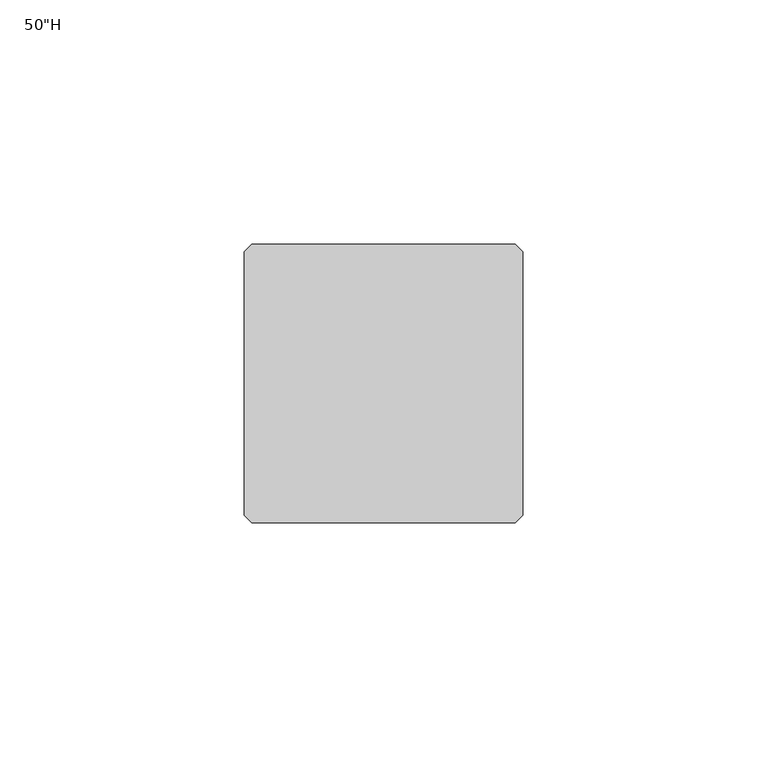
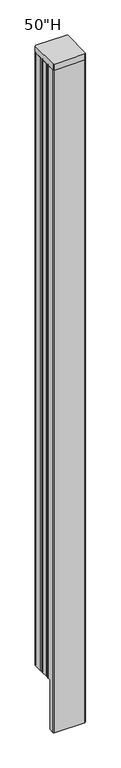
"""IFC4 building model written with IfcOpenShell, lengths in millimetres: furniture geometry."""

import ifcopenshell
import ifcopenshell.guid

model = None  # the IFC model being written
_history = None  # IfcOwnerHistory: only IFC2X3 demands one
_inside = {}  # id of a spatial element -> (the spatial element, [elements in it])
_under = {}  # id of a project, library or spatial element -> (it, [spatial elements below it])
_declared = {}  # id of a project -> (the project, [libraries it declares])
_typed = {}  # id of a type object -> (the type object, [elements of that type])
_made_of = {}  # id of a material, layer set ... -> (it, [elements and type objects made of it])


def new_model(schema):
    """Start an empty IFC model of exactly this schema.

    Asked for "IFC4X3", IfcOpenShell would pick the latest addendum, in which some entities
    have other attributes; the version numbers below select the first issue.
    IFC2X3 requires an IfcOwnerHistory on every rooted entity: one is made here for all.
    """
    global model, _history
    if schema == "IFC4X3":
        model = ifcopenshell.file(schema_version=(4, 3, 0, 0))
    else:
        model = ifcopenshell.file(schema=schema)
    _inside.clear()
    _under.clear()
    _declared.clear()
    _typed.clear()
    _made_of.clear()
    _history = None
    if model.schema == "IFC2X3":
        org = make("IfcOrganization", Name="unknown")
        user = make(
            "IfcPersonAndOrganization",
            ThePerson=make("IfcPerson", FamilyName="unknown"),
            TheOrganization=org,
        )
        app = make(
            "IfcApplication",
            ApplicationDeveloper=org,
            Version="unknown",
            ApplicationFullName="unknown",
            ApplicationIdentifier="unknown",
        )
        _history = make(
            "IfcOwnerHistory",
            OwningUser=user,
            OwningApplication=app,
            ChangeAction="ADDED",
            CreationDate=0,
        )
    return model


def make(cls, **values):
    """One entity of the class cls with the attributes given. An attribute that is None is left unset."""
    return model.create_entity(
        cls, **{name: value for name, value in values.items() if value is not None}
    )


def rooted(cls, **values):
    """An entity with a GlobalId (a new one), such as an element, a storey or a relation."""
    return make(cls, GlobalId=ifcopenshell.guid.new(), OwnerHistory=_history, **values)


def si_unit(unit_type, name, prefix=None):
    """IfcSIUnit, for example si_unit("LENGTHUNIT", "METRE", prefix="MILLI")."""
    return make("IfcSIUnit", UnitType=unit_type, Prefix=prefix, Name=name)


def assignment(units):
    """IfcUnitAssignment: the units of a project."""
    return None if units is None else make("IfcUnitAssignment", Units=units)


def point(xyz):
    """IfcCartesianPoint."""
    return None if xyz is None else make("IfcCartesianPoint", Coordinates=xyz)


def direction(xyz):
    """IfcDirection."""
    return None if xyz is None else make("IfcDirection", DirectionRatios=xyz)


def frame(location, z_axis=None, x_axis=None):
    """IfcAxis2Placement3D, a coordinate frame: its origin and axes. An axis left out is left unset."""
    return make(
        "IfcAxis2Placement3D",
        Location=point(location),
        Axis=direction(z_axis),
        RefDirection=direction(x_axis),
    )


def origin():
    """The frame at (0, 0, 0) with its axes left unset."""
    return frame((0.0, 0.0, 0.0))


def place(relative_to, where):
    """IfcLocalPlacement: puts the frame where relative to a parent placement (None: the world)."""
    return make(
        "IfcLocalPlacement", PlacementRelTo=relative_to, RelativePlacement=where
    )


def context(
    kind, dimensions, precision=None, world=None, true_north=None, identifier=None
):
    """IfcGeometricRepresentationContext, for example the 3D "Model" context."""
    return make(
        "IfcGeometricRepresentationContext",
        ContextIdentifier=identifier,
        ContextType=kind,
        CoordinateSpaceDimension=dimensions,
        Precision=precision,
        WorldCoordinateSystem=world,
        TrueNorth=true_north,
    )


def project(units=None, contexts=None):
    """IfcProject with its units and contexts."""
    return rooted(
        "IfcProject",
        Name="project",
        RepresentationContexts=contexts,
        UnitsInContext=assignment(units),
    )


def spatial(cls, under=None, at=None, **own):
    """A site, building, storey or space (cls), placed at a placement, below another one or the project."""
    s = rooted(cls, ObjectPlacement=at, **own)
    if under is not None:
        _under.setdefault(under.id(), (under, []))[1].append(s)
    return s


def polyline(points):
    """IfcPolyline through the points."""
    return make("IfcPolyline", Points=[point(p) for p in points])


def circle_curve(where, radius):
    """IfcCircle in the frame where."""
    return make("IfcCircle", Position=where, Radius=radius)


def outline(outer, holes=None, kind="AREA"):
    """IfcArbitraryClosedProfileDef: a profile drawn as a closed curve; with holes, ...WithVoids."""
    if holes is None:
        return make("IfcArbitraryClosedProfileDef", ProfileType=kind, OuterCurve=outer)
    return make(
        "IfcArbitraryProfileDefWithVoids",
        ProfileType=kind,
        OuterCurve=outer,
        InnerCurves=holes,
    )


def extrude(swept, where, along, depth):
    """IfcExtrudedAreaSolid: the profile swept, set in the frame where, extruded along a direction by depth."""
    return make(
        "IfcExtrudedAreaSolid",
        SweptArea=swept,
        Position=where,
        ExtrudedDirection=direction(along),
        Depth=depth,
    )


def shape(context_of_items, identifier, shape_type, items):
    """IfcShapeRepresentation: the items that make up one representation, for example the "Body"."""
    return make(
        "IfcShapeRepresentation",
        ContextOfItems=context_of_items,
        RepresentationIdentifier=identifier,
        RepresentationType=shape_type,
        Items=items,
    )


def source(mapping_origin, context_of_items, identifier, shape_type, items):
    """IfcRepresentationMap: a shape defined once, which mapped items show again and again."""
    return make(
        "IfcRepresentationMap",
        MappingOrigin=mapping_origin,
        MappedRepresentation=shape(context_of_items, identifier, shape_type, items),
    )


def transform(
    local_origin,
    x_axis=None,
    y_axis=None,
    z_axis=None,
    scale=None,
    scale2=None,
    scale3=None,
    uniform=True,
):
    """IfcCartesianTransformationOperator3D, or its non-uniform kind. x_axis, y_axis, z_axis: its Axis1, 2, 3."""
    if uniform:
        return make(
            "IfcCartesianTransformationOperator3D",
            Axis1=direction(x_axis),
            Axis2=direction(y_axis),
            LocalOrigin=point(local_origin),
            Scale=scale,
            Axis3=direction(z_axis),
        )
    return make(
        "IfcCartesianTransformationOperator3DnonUniform",
        Axis1=direction(x_axis),
        Axis2=direction(y_axis),
        LocalOrigin=point(local_origin),
        Scale=scale,
        Axis3=direction(z_axis),
        Scale2=scale2,
        Scale3=scale3,
    )


def mapped(mapping_source, mapping_target):
    """IfcMappedItem: shows the shape of a source again, moved by a transform."""
    return make(
        "IfcMappedItem", MappingSource=mapping_source, MappingTarget=mapping_target
    )


def made_of(thing, what):
    """Note that an element or type object is made of a material, layer set ...; save() writes the relation."""
    if what is not None:
        _made_of.setdefault(what.id(), (what, []))[1].append(thing)
    return thing


def element(
    cls,
    number,
    at=None,
    inside=None,
    cuts=None,
    type_object=None,
    material=None,
    context=None,
    identifier="Body",
    shape_type=None,
    held_by="IfcProductDefinitionShape",
    body=None,
    shapes=None,
    **own,
):
    """One element of the class cls, such as IfcWall. Its Tag is "e" and its number.

    at: its placement. inside: the storey or other place that contains it. cuts: it is an
    opening in that element (IfcRelVoidsElement). A single representation is given by context,
    identifier, shape_type and body (its items); several are given by shapes. held_by: the class
    of the entity that holds the representations. save() writes the other relations.
    """
    e = rooted(cls, Tag="e%d" % number, ObjectPlacement=at, **own)
    if body is not None:
        shapes = [shape(context, identifier, shape_type, body)]
    if shapes is not None:
        e.Representation = make(held_by, Representations=shapes)
    if inside is not None:
        _inside.setdefault(inside.id(), (inside, []))[1].append(e)
    if cuts is not None:
        rooted(
            "IfcRelVoidsElement", RelatingBuildingElement=cuts, RelatedOpeningElement=e
        )
    if type_object is not None:
        _typed.setdefault(type_object.id(), (type_object, []))[1].append(e)
    return made_of(e, material)


def aggregate(whole, parts):
    """IfcRelAggregates: a whole, such as a stair, and the parts it consists of."""
    return rooted("IfcRelAggregates", RelatingObject=whole, RelatedObjects=parts)


def save(model, path):
    """Write the relations noted so far, then the file.

    IfcRelAggregates (storeys below a building ...), IfcRelContainedInSpatialStructure (elements
    in a storey), IfcRelDefinesByType, IfcRelAssociatesMaterial and IfcRelDeclares: one each for
    every whole, place, type object, material and project.
    """
    for whole, parts in _under.values():
        aggregate(whole, parts)
    for where, things in _inside.values():
        rooted(
            "IfcRelContainedInSpatialStructure",
            RelatedElements=things,
            RelatingStructure=where,
        )
    for kind, things in _typed.values():
        rooted("IfcRelDefinesByType", RelatedObjects=things, RelatingType=kind)
    for what, things in _made_of.values():
        rooted("IfcRelAssociatesMaterial", RelatedObjects=things, RelatingMaterial=what)
    for by, libraries in _declared.values():
        rooted("IfcRelDeclares", RelatingContext=by, RelatedDefinitions=libraries)
    model.write(path)


def plane_surface(at):
    """IfcPlane: the flat surface through the origin of the frame at, square to its z axis."""
    return make("IfcPlane", Position=at)


def cylinder_surface(at, radius):
    """IfcCylindricalSurface: all points at the distance radius from the z axis of the frame at."""
    return make("IfcCylindricalSurface", Position=at, Radius=radius)


def revolved_surface(curve, axis_point, axis_direction):
    """IfcSurfaceOfRevolution: the curve turned about the line through axis_point along axis_direction."""
    return make(
        "IfcSurfaceOfRevolution",
        SweptCurve=make("IfcArbitraryOpenProfileDef", ProfileType="CURVE", Curve=curve),
        AxisPosition=make("IfcAxis1Placement", Location=point(axis_point), Axis=direction(axis_direction)),
    )


def advanced_brep(points, edges, surfaces, faces):
    """IfcAdvancedBrep: a solid bounded by faces that lie on surfaces and meet in shared edges.

    An edge is (start, end): straight between two places in points (the first is 0);
    or (start, end, curve); or (start, end, curve, False) where it runs against its curve.
    A face is (place in surfaces, loops), or (place, loops, False) where it looks against
    its surface's normal. A loop lists edges by number (the first is 1), with a minus sign
    where the edge is run from its end to its start. The first loop is the outer one.
    """
    corners = [point(p) for p in points]
    vertices = [make("IfcVertexPoint", VertexGeometry=c) for c in corners]
    made = []
    for start, end, *more in edges:
        made.append(
            make(
                "IfcEdgeCurve",
                EdgeStart=vertices[start],
                EdgeEnd=vertices[end],
                EdgeGeometry=more[0] if more else make("IfcPolyline", Points=[corners[start], corners[end]]),
                SameSense=more[1] if len(more) > 1 else True,
            )
        )
    hull = []
    for where, loops, *sense in faces:
        bounds = []
        for j, loop in enumerate(loops):
            ring = [make("IfcOrientedEdge", EdgeElement=made[abs(k) - 1], Orientation=k > 0) for k in loop]
            bounds.append(
                make(
                    "IfcFaceOuterBound" if j == 0 else "IfcFaceBound",
                    Bound=make("IfcEdgeLoop", EdgeList=ring),
                    Orientation=True,
                )
            )
        hull.append(make("IfcAdvancedFace", Bounds=bounds, FaceSurface=surfaces[where], SameSense=sense[0] if sense else True))
    return make("IfcAdvancedBrep", Outer=make("IfcClosedShell", CfsFaces=hull))


def furniture_285fecfc(model_context):
    return source(origin(), model_context, "Body", "SolidModel", [
        extrude(outline(polyline([(0.0, -1.5874985), (1.5874985, 0.0), (55.5625015, 0.0), (57.15, -1.5874985), (57.15, -55.5625015), (55.5625015, -57.15), (1.5874985, -57.15), (0.0, -55.5625015), (0.0, -1.5874985)])), frame((0.0, 0.0, 1247.775), z_axis=(0.0, 0.0, 1.0), x_axis=(1.0, 0.0, 0.0)), (0.0, 0.0, 1.0), 11.2522202),
        advanced_brep(
        [(0.0, -34.360617, 1247.775), (0.0245942, -39.2275622, 1247.775), (0.0245942, -55.5870957, 1247.775), (1.5629043, -57.1254058, 1247.775), (55.5870957, -57.1254058, 1247.775), (57.1254058, -55.5870957, 1247.775), (57.1254058, -39.2275622, 1247.775), (57.15, -34.360617, 1247.775), (57.15, -22.789383, 1247.775), (57.1254058, -17.9224378, 1247.775), (57.1254058, -1.5629043, 1247.775), (55.5870957, -0.0245942, 1247.775), (39.0370624, -0.0245942, 1247.775), (34.1701172, 0.0, 1247.775), (22.5988831, 0.0, 1247.775), (17.731938, -0.0245942, 1247.775), (1.5629043, -0.0245942, 1247.775), (0.0245942, -1.5629043, 1247.775), (0.0245942, -17.9224378, 1247.775), (0.0, -22.789383, 1247.775), (0.8183442, -39.5025989, 1247.775), (0.79375, -34.0813213, 1247.775), (0.79375, -23.0686787, 1247.775), (0.8183442, -17.6474011, 1247.775), (0.8183442, -1.8916863, 1247.775), (1.8916863, -0.8183442, 1247.775), (17.4569013, -0.8183442, 1247.775), (22.8781788, -0.79375, 1247.775), (33.8908215, -0.79375, 1247.775), (39.3120991, -0.8183442, 1247.775), (55.2583137, -0.8183442, 1247.775), (56.3316558, -1.8916863, 1247.775), (56.3316558, -17.6474011, 1247.775), (56.35625, -23.0686787, 1247.775), (56.35625, -34.0813213, 1247.775), (56.3316558, -39.5025989, 1247.775), (56.3316558, -55.2583137, 1247.775), (55.2583137, -56.3316558, 1247.775), (1.8916863, -56.3316558, 1247.775), (0.8183442, -55.2583137, 1247.775), (0.0245942, -55.5870957, 19.84375), (0.0245942, -46.0247979, 19.84375), (0.8183442, -46.0247979, 19.84375), (0.8183442, -55.2583137, 19.84375), (1.8916863, -56.3316558, 19.84375), (55.2583137, -56.3316558, 19.84375), (56.3316558, -55.2583137, 19.84375), (56.3316558, -46.0247979, 19.84375), (57.1254058, -46.0247979, 19.84375), (57.1254058, -55.5870957, 19.84375), (55.5870957, -57.1254058, 19.84375), (1.5629043, -57.1254058, 19.84375), (0.0, -22.789383, 111.8539829), (0.0, -34.360617, 111.8539829), (0.0245942, -17.9224378, 111.8539829), (0.0245942, -1.5629043, 111.8539829), (1.5629043, -0.0245942, 111.8539829), (17.731938, -0.0245942, 111.8539829), (22.5988831, 0.0, 111.8539829), (34.1701172, 0.0, 111.8539829), (39.0370624, -0.0245942, 111.8539829), (55.5870957, -0.0245942, 111.8539829), (57.1254058, -1.5629043, 111.8539829), (0.0245942, -39.2275622, 111.8539829), (0.0245942, -46.0247979, 111.8539829), (0.8183442, -46.0247979, 111.8539829), (0.8183442, -39.5025989, 111.8539829), (55.2583137, -0.8183442, 111.8539829), (56.3316558, -1.8916863, 111.8539829), (39.3120991, -0.8183442, 111.8539829), (33.8908215, -0.79375, 111.8539829), (22.8781788, -0.79375, 111.8539829), (17.4569013, -0.8183442, 111.8539829), (1.8916863, -0.8183442, 111.8539829), (0.8183442, -1.8916863, 111.8539829), (0.8183442, -17.6474011, 111.8539829), (0.79375, -23.0686787, 111.8539829), (0.79375, -34.0813213, 111.8539829), (57.1254058, -17.9224378, 111.8539829), (57.15, -22.789383, 111.8539829), (57.15, -34.360617, 111.8539829), (57.1254058, -39.2275622, 111.8539829), (57.1254058, -46.0247979, 111.8539829), (56.3316558, -46.0247979, 111.8539829), (56.3316558, -39.5025989, 111.8539829), (56.35625, -34.0813213, 111.8539829), (56.35625, -23.0686787, 111.8539829), (56.3316558, -17.6474011, 111.8539829)],
        [
            (0, 1, circle_curve(frame((-2.8354169, -36.80848, 1247.775), z_axis=(0.0, 0.0, -1.0), x_axis=(1.0, 0.0, 0.0)), 3.7458807)),
            (1, 2),
            (2, 3),
            (3, 4),
            (4, 5),
            (5, 6),
            (6, 7, circle_curve(frame((59.9854169, -36.80848, 1247.775), z_axis=(0.0, 0.0, -1.0), x_axis=(1.0, 0.0, 0.0)), 3.7458807)),
            (7, 8),
            (8, 9, circle_curve(frame((59.9854169, -20.34152, 1247.775), z_axis=(0.0, 0.0, -1.0), x_axis=(1.0, 0.0, 0.0)), 3.7458807)),
            (9, 10),
            (10, 11),
            (11, 12),
            (12, 13, circle_curve(frame((36.6179802, 2.8354169, 1247.775), z_axis=(0.0, 0.0, -1.0), x_axis=(1.0, 0.0, 0.0)), 3.7458807)),
            (13, 14),
            (14, 15, circle_curve(frame((20.1510201, 2.8354169, 1247.775), z_axis=(0.0, 0.0, -1.0), x_axis=(1.0, 0.0, 0.0)), 3.7458807)),
            (15, 16),
            (16, 17),
            (17, 18),
            (18, 19, circle_curve(frame((-2.8354169, -20.34152, 1247.775), z_axis=(0.0, 0.0, -1.0), x_axis=(1.0, 0.0, 0.0)), 3.7458807)),
            (19, 0),
            (20, 21, circle_curve(frame((-2.8354169, -36.80848, 1247.775), z_axis=(0.0, 0.0, 1.0), x_axis=(1.0, 0.0, 0.0)), 4.5396307)),
            (21, 22),
            (22, 23, circle_curve(frame((-2.8354169, -20.34152, 1247.775), z_axis=(0.0, 0.0, 1.0), x_axis=(1.0, 0.0, 0.0)), 4.5396307)),
            (23, 24),
            (24, 25),
            (25, 26),
            (26, 27, circle_curve(frame((20.1510201, 2.8354169, 1247.775), z_axis=(0.0, 0.0, 1.0), x_axis=(1.0, 0.0, 0.0)), 4.5396307)),
            (27, 28),
            (28, 29, circle_curve(frame((36.6179802, 2.8354169, 1247.775), z_axis=(0.0, 0.0, 1.0), x_axis=(1.0, 0.0, 0.0)), 4.5396307)),
            (29, 30),
            (30, 31),
            (31, 32),
            (32, 33, circle_curve(frame((59.9854169, -20.34152, 1247.775), z_axis=(0.0, 0.0, 1.0), x_axis=(1.0, 0.0, 0.0)), 4.5396307)),
            (33, 34),
            (34, 35, circle_curve(frame((59.9854169, -36.80848, 1247.775), z_axis=(0.0, 0.0, 1.0), x_axis=(1.0, 0.0, 0.0)), 4.5396307)),
            (35, 36),
            (36, 37),
            (37, 38),
            (38, 39),
            (39, 20),
            (40, 41),
            (41, 42),
            (42, 43),
            (43, 44),
            (44, 45),
            (45, 46),
            (46, 47),
            (47, 48),
            (48, 49),
            (49, 50),
            (50, 51),
            (51, 40),
            (19, 52),
            (52, 53),
            (53, 0),
            (18, 54),
            (54, 52, circle_curve(frame((-2.8354169, -20.34152, 111.8539829), z_axis=(0.0, 0.0, -1.0), x_axis=(1.0, 0.0, 0.0)), 3.7458807)),
            (17, 55),
            (55, 54),
            (16, 56),
            (56, 55),
            (15, 57),
            (57, 56),
            (14, 58),
            (58, 57, circle_curve(frame((20.1510201, 2.8354169, 111.8539829), z_axis=(0.0, 0.0, -1.0), x_axis=(1.0, 0.0, 0.0)), 3.7458807)),
            (13, 59),
            (59, 58),
            (12, 60),
            (60, 59, circle_curve(frame((36.6179802, 2.8354169, 111.8539829), z_axis=(0.0, 0.0, -1.0), x_axis=(1.0, 0.0, 0.0)), 3.7458807)),
            (11, 61),
            (61, 60),
            (10, 62),
            (62, 61),
            (4, 50),
            (49, 5),
            (3, 51),
            (2, 40),
            (1, 63),
            (63, 64),
            (64, 41),
            (53, 63, circle_curve(frame((-2.8354169, -36.80848, 111.8539829), z_axis=(0.0, 0.0, -1.0), x_axis=(1.0, 0.0, 0.0)), 3.7458807)),
            (39, 43),
            (42, 65),
            (65, 66),
            (66, 20),
            (38, 44),
            (37, 45),
            (36, 46),
            (30, 67),
            (67, 68),
            (68, 31),
            (29, 69),
            (69, 67),
            (28, 70),
            (70, 69, circle_curve(frame((36.6179802, 2.8354169, 111.8539829), z_axis=(0.0, 0.0, 1.0), x_axis=(1.0, 0.0, 0.0)), 4.5396307)),
            (27, 71),
            (71, 70),
            (26, 72),
            (72, 71, circle_curve(frame((20.1510201, 2.8354169, 111.8539829), z_axis=(0.0, 0.0, 1.0), x_axis=(1.0, 0.0, 0.0)), 4.5396307)),
            (25, 73),
            (73, 72),
            (24, 74),
            (74, 73),
            (23, 75),
            (75, 74),
            (22, 76),
            (76, 75, circle_curve(frame((-2.8354169, -20.34152, 111.8539829), z_axis=(0.0, 0.0, 1.0), x_axis=(1.0, 0.0, 0.0)), 4.5396307)),
            (21, 77),
            (77, 76),
            (66, 77, circle_curve(frame((-2.8354169, -36.80848, 111.8539829), z_axis=(0.0, 0.0, 1.0), x_axis=(1.0, 0.0, 0.0)), 4.5396307)),
            (62, 78),
            (78, 79, circle_curve(frame((59.9854169, -20.34152, 111.8539829), z_axis=(0.0, 0.0, 1.0), x_axis=(1.0, 0.0, 0.0)), 3.7458807)),
            (79, 80),
            (80, 81, circle_curve(frame((59.9854169, -36.80848, 111.8539829), z_axis=(0.0, 0.0, 1.0), x_axis=(1.0, 0.0, 0.0)), 3.7458807)),
            (81, 82),
            (82, 83),
            (83, 84),
            (84, 85, circle_curve(frame((59.9854169, -36.80848, 111.8539829), z_axis=(0.0, 0.0, -1.0), x_axis=(1.0, 0.0, 0.0)), 4.5396307)),
            (85, 86),
            (86, 87, circle_curve(frame((59.9854169, -20.34152, 111.8539829), z_axis=(0.0, 0.0, -1.0), x_axis=(1.0, 0.0, 0.0)), 4.5396307)),
            (87, 68),
            (65, 64),
            (82, 48),
            (47, 83),
            (9, 78),
            (8, 79),
            (7, 80),
            (6, 81),
            (35, 84),
            (34, 85),
            (33, 86),
            (32, 87),
        ],
        [
            plane_surface(frame((0.0, -23.406787, 1247.775), z_axis=(0.0, 0.0, 1.0), x_axis=(0.0, 1.0, 0.0))),
            plane_surface(frame((0.0, -23.406787, 19.84375), z_axis=(0.0, 0.0, -1.0), x_axis=(0.0, -1.0, 0.0))),
            plane_surface(frame((0.0, -34.360617, 1247.775), z_axis=(-1.0, 0.0, 0.0), x_axis=(0.0, 0.0, -1.0))),
            revolved_surface(polyline([(0.9104638, -20.34152, 111.8539829), (0.9104638, -20.34152, 1247.775)]), (-2.8354169, -20.34152, 19.84375), (0.0, 0.0, -1.0)),
            plane_surface(frame((0.0245942, -17.9224378, 1247.775), z_axis=(-1.0, 0.0, 0.0), x_axis=(0.0, 0.0, -1.0))),
            plane_surface(frame((0.0245942, -1.5629043, 1247.775), z_axis=(-0.707106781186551, 0.707106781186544, 0.0), x_axis=(0.0, 0.0, -1.0))),
            plane_surface(frame((1.5629043, -0.0245942, 1247.775), z_axis=(0.0, 1.0, 0.0), x_axis=(0.0, 0.0, -1.0))),
            revolved_surface(polyline([(23.8969008, 2.8354169, 111.8539829), (23.8969008, 2.8354169, 1247.775)]), (20.1510201, 2.8354169, 19.84375), (0.0, 0.0, -1.0)),
            plane_surface(frame((22.5988831, 0.0, 1247.775), z_axis=(0.0, 1.0, 0.0), x_axis=(0.0, 0.0, -1.0))),
            revolved_surface(polyline([(40.3638609, 2.8354169, 111.8539829), (40.3638609, 2.8354169, 1247.775)]), (36.6179802, 2.8354169, 19.84375), (0.0, 0.0, -1.0)),
            plane_surface(frame((39.0370624, -0.0245942, 1247.775), z_axis=(0.0, 1.0, 0.0), x_axis=(0.0, 0.0, -1.0))),
            plane_surface(frame((55.5870957, -0.0245942, 1247.775), z_axis=(0.7071067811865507, 0.7071067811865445, 0.0), x_axis=(0.0, 0.0, -1.0))),
            plane_surface(frame((57.1254058, -55.5870957, 1247.775), z_axis=(0.7071067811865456, -0.7071067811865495, 0.0), x_axis=(0.0, 0.0, -1.0))),
            plane_surface(frame((55.5870957, -57.1254058, 1247.775), z_axis=(0.0, -1.0, 0.0), x_axis=(0.0, 0.0, -1.0))),
            plane_surface(frame((1.5629043, -57.1254058, 1247.775), z_axis=(-0.7071067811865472, -0.7071067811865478, 0.0), x_axis=(0.0, 0.0, -1.0))),
            plane_surface(frame((0.0245942, -55.5870957, 1247.775), z_axis=(-1.0, 0.0, 0.0), x_axis=(0.0, 0.0, -1.0))),
            revolved_surface(polyline([(0.9104638, -36.80848, 111.8539829), (0.9104638, -36.80848, 1247.775)]), (-2.8354169, -36.80848, 19.84375), (0.0, 0.0, -1.0)),
            plane_surface(frame((0.8183442, -39.5025989, 1247.775), z_axis=(1.0, 0.0, 0.0), x_axis=(0.0, 0.0, -1.0))),
            plane_surface(frame((0.8183442, -55.2583137, 1247.775), z_axis=(0.707106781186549, 0.7071067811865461, 0.0), x_axis=(0.0, 0.0, -1.0))),
            plane_surface(frame((1.8916863, -56.3316558, 1247.775), z_axis=(0.0, 1.0, 0.0), x_axis=(0.0, 0.0, -1.0))),
            plane_surface(frame((55.2583137, -56.3316558, 1247.775), z_axis=(-0.7071067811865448, 0.7071067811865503, 0.0), x_axis=(0.0, 0.0, -1.0))),
            plane_surface(frame((56.3316558, -1.8916863, 1247.775), z_axis=(-0.7071067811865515, -0.7071067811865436, 0.0), x_axis=(0.0, 0.0, -1.0))),
            plane_surface(frame((55.2583137, -0.8183442, 1247.775), z_axis=(0.0, -1.0, 0.0), x_axis=(0.0, 0.0, -1.0))),
            cylinder_surface(frame((36.6179802, 2.8354169, 0.0), z_axis=(0.0, 0.0, 1.0), x_axis=(1.0, 0.0, 0.0)), 4.5396307),
            plane_surface(frame((33.8908215, -0.79375, 1247.775), z_axis=(0.0, -1.0, 0.0), x_axis=(0.0, 0.0, -1.0))),
            cylinder_surface(frame((20.1510201, 2.8354169, 0.0), z_axis=(0.0, 0.0, 1.0), x_axis=(1.0, 0.0, 0.0)), 4.5396307),
            plane_surface(frame((17.4569013, -0.8183442, 1247.775), z_axis=(0.0, -1.0, 0.0), x_axis=(0.0, 0.0, -1.0))),
            plane_surface(frame((1.8916863, -0.8183442, 1247.775), z_axis=(0.707106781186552, -0.7071067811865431, 0.0), x_axis=(0.0, 0.0, -1.0))),
            plane_surface(frame((0.8183442, -1.8916863, 1247.775), z_axis=(1.0, 0.0, 0.0), x_axis=(0.0, 0.0, -1.0))),
            cylinder_surface(frame((-2.8354169, -20.34152, 0.0), z_axis=(0.0, 0.0, 1.0), x_axis=(1.0, 0.0, 0.0)), 4.5396307),
            plane_surface(frame((0.79375, -23.0686787, 1247.775), z_axis=(1.0, 0.0, 0.0), x_axis=(0.0, 0.0, -1.0))),
            cylinder_surface(frame((-2.8354169, -36.80848, 0.0), z_axis=(0.0, 0.0, 1.0), x_axis=(1.0, 0.0, 0.0)), 4.5396307),
            plane_surface(frame((46.0247979, 12.7, 111.8539829), z_axis=(0.0, 0.0, -1.0), x_axis=(1.0, 0.0, 0.0))),
            plane_surface(frame((69.8254058, -46.0247979, 111.8539829), z_axis=(0.0, 1.0, 0.0), x_axis=(0.0, 0.0, -1.0))),
            plane_surface(frame((57.1254058, -1.5629043, 1247.775), z_axis=(1.0, 0.0, 0.0), x_axis=(0.0, 0.0, -1.0))),
            revolved_surface(polyline([(63.7312976, -20.34152, 111.8539829), (63.7312976, -20.34152, 1247.775)]), (59.9854169, -20.34152, 19.84375), (0.0, 0.0, -1.0)),
            plane_surface(frame((57.15, -22.789383, 1247.775), z_axis=(1.0, 0.0, 0.0), x_axis=(0.0, 0.0, -1.0))),
            revolved_surface(polyline([(63.7312976, -36.80848, 111.8539829), (63.7312976, -36.80848, 1247.775)]), (59.9854169, -36.80848, 19.84375), (0.0, 0.0, -1.0)),
            plane_surface(frame((57.1254058, -39.2275622, 1247.775), z_axis=(1.0, 0.0, 0.0), x_axis=(0.0, 0.0, -1.0))),
            plane_surface(frame((56.3316558, -55.2583137, 1247.775), z_axis=(-1.0, 0.0, 0.0), x_axis=(0.0, 0.0, -1.0))),
            cylinder_surface(frame((59.9854169, -36.80848, 0.0), z_axis=(0.0, 0.0, 1.0), x_axis=(1.0, 0.0, 0.0)), 4.5396307),
            plane_surface(frame((56.35625, -34.0813213, 1247.775), z_axis=(-1.0, 0.0, 0.0), x_axis=(0.0, 0.0, -1.0))),
            cylinder_surface(frame((59.9854169, -20.34152, 0.0), z_axis=(0.0, 0.0, 1.0), x_axis=(1.0, 0.0, 0.0)), 4.5396307),
            plane_surface(frame((56.3316558, -17.6474011, 1247.775), z_axis=(-1.0, 0.0, 0.0), x_axis=(0.0, 0.0, -1.0))),
        ],
        [
            (0, [[1, 2, 3, 4, 5, 6, 7, 8, 9, 10, 11, 12, 13, 14, 15, 16, 17, 18, 19, 20], [21, 22, 23, 24, 25, 26, 27, 28, 29, 30, 31, 32, 33, 34, 35, 36, 37, 38, 39, 40]]),
            (1, [[41, 42, 43, 44, 45, 46, 47, 48, 49, 50, 51, 52]]),
            (2, [[53, 54, 55, -20]]),
            (3, [[56, 57, -53, -19]]),
            (4, [[58, 59, -56, -18]]),
            (5, [[60, 61, -58, -17]]),
            (6, [[62, 63, -60, -16]]),
            (7, [[64, 65, -62, -15]]),
            (8, [[66, 67, -64, -14]]),
            (9, [[68, 69, -66, -13]]),
            (10, [[70, 71, -68, -12]]),
            (11, [[72, 73, -70, -11]]),
            (12, [[74, -50, 75, -5]]),
            (13, [[76, -51, -74, -4]]),
            (14, [[77, -52, -76, -3]]),
            (15, [[78, 79, 80, -41, -77, -2]]),
            (16, [[-55, 81, -78, -1]]),
            (17, [[82, -43, 83, 84, 85, -40]]),
            (18, [[86, -44, -82, -39]]),
            (19, [[87, -45, -86, -38]]),
            (20, [[88, -46, -87, -37]]),
            (21, [[89, 90, 91, -31]]),
            (22, [[92, 93, -89, -30]]),
            (23, [[94, 95, -92, -29]]),
            (24, [[96, 97, -94, -28]]),
            (25, [[98, 99, -96, -27]]),
            (26, [[100, 101, -98, -26]]),
            (27, [[102, 103, -100, -25]]),
            (28, [[104, 105, -102, -24]]),
            (29, [[106, 107, -104, -23]]),
            (30, [[108, 109, -106, -22]]),
            (31, [[-85, 110, -108, -21]]),
            (32, [[-79, -81, -54, -57, -59, -61, -63, -65, -67, -69, -71, -73, 111, 112, 113, 114, 115, 116, 117, 118, 119, 120, 121, -90, -93, -95, -97, -99, -101, -103, -105, -107, -109, -110, -84, 122]]),
            (33, [[-83, -42, -80, -122]]),
            (33, [[123, -48, 124, -116]]),
            (34, [[125, -111, -72, -10]]),
            (35, [[126, -112, -125, -9]]),
            (36, [[127, -113, -126, -8]]),
            (37, [[128, -114, -127, -7]]),
            (38, [[-75, -49, -123, -115, -128, -6]]),
            (39, [[129, -117, -124, -47, -88, -36]]),
            (40, [[130, -118, -129, -35]]),
            (41, [[131, -119, -130, -34]]),
            (42, [[132, -120, -131, -33]]),
            (43, [[-91, -121, -132, -32]]),
        ],
    ),
    ])


if __name__ == "__main__":
    model = new_model("IFC4")
    model_context = context("Model", 3, world=origin())
    ifc_project = project(units=[si_unit("LENGTHUNIT", "METRE", prefix="MILLI")], contexts=[model_context])
    site = spatial("IfcSite", under=ifc_project)
    building = spatial("IfcBuilding", under=site)
    placement = place(None, origin())
    furniture_shape = furniture_285fecfc(model_context)
    element("IfcFurniture", 1, ObjectType="HON - Accelerate - Connector - T Post : 50\"H", at=placement, inside=building, context=model_context, shape_type="MappedRepresentation", body=[
        mapped(furniture_shape, transform((0.0, 0.0, 0.0), x_axis=(1.0, 0.0, 0.0), y_axis=(0.0, 1.0, 0.0), z_axis=(0.0, 0.0, 1.0))),
    ])
    save(model, "model.ifc")
